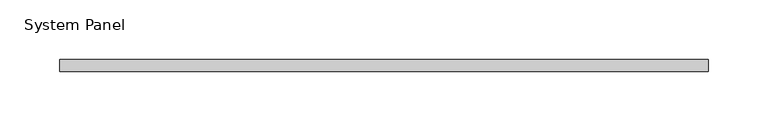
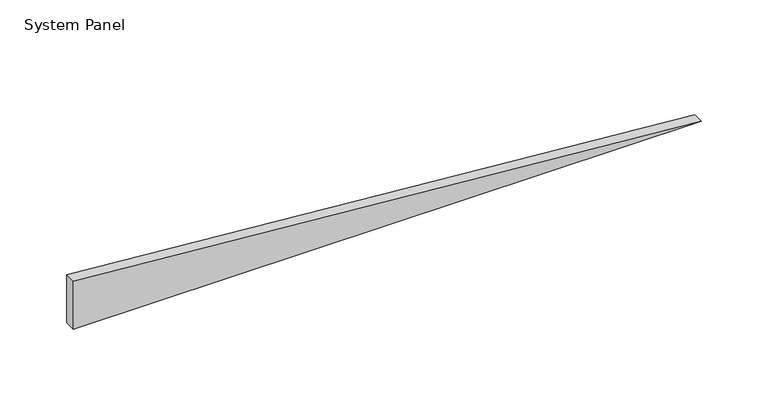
"""IFC4 building model written with IfcOpenShell, lengths in millimetres: plate geometry, System Panel : VACÍO."""

from ifc_helpers import new_model, si_unit, frame, origin, place, context, project, spatial, polyline, outline, extrude, source, transform, mapped, element, save


def system_panel_61a27c40(model_context):
    return source(origin(), model_context, "Body", "SweptSolid", [
        extrude(outline(polyline([(0.0, -271.7779045), (0.0, 271.7779045), (43.8536236, -271.7779045), (0.0, -271.7779045)])), frame((0.0, -5.0, 0.0), z_axis=(0.0, 1.0, 0.0), x_axis=(0.0, 0.0, 1.0)), (0.0, 0.0, 1.0), 10.0),
    ])


if __name__ == "__main__":
    model = new_model("IFC4")
    model_context = context("Model", 3, world=origin())
    ifc_project = project(units=[si_unit("LENGTHUNIT", "METRE", prefix="MILLI")], contexts=[model_context])
    site = spatial("IfcSite", under=ifc_project)
    building = spatial("IfcBuilding", under=site)
    placement = place(None, origin())
    system_panel_shape = system_panel_61a27c40(model_context)
    element("IfcPlate", 1, ObjectType="System Panel : VACÍO", at=placement, inside=building, context=model_context, shape_type="MappedRepresentation", body=[
        mapped(system_panel_shape, transform((0.0, 0.0, 0.0), x_axis=(1.0, 0.0, 0.0), y_axis=(0.0, 1.0, 0.0), z_axis=(0.0, 0.0, 1.0))),
    ])
    save(model, "model.ifc")
